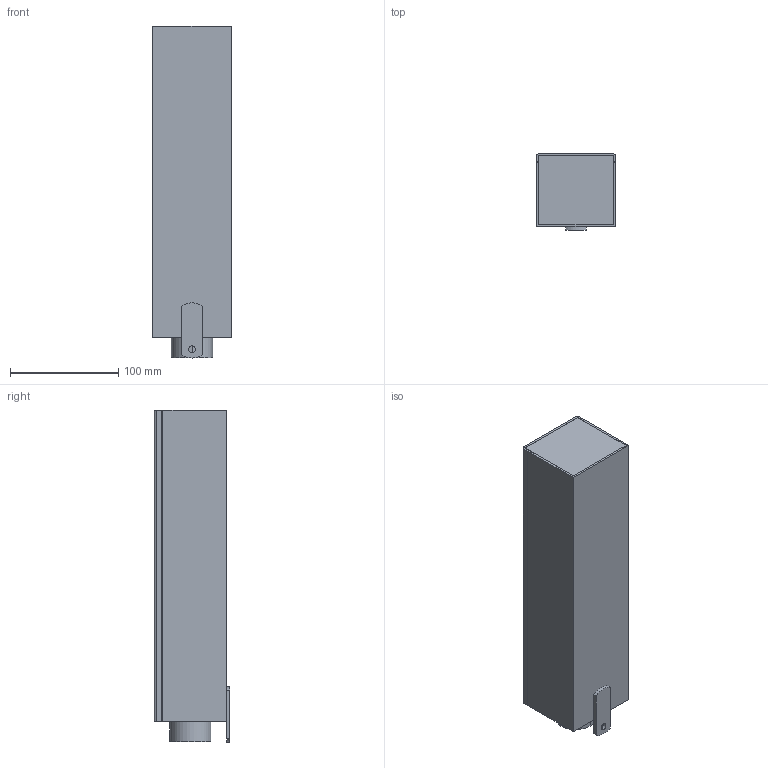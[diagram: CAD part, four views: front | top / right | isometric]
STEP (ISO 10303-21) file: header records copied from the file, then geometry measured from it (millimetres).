
FILE_DESCRIPTION((''),'2;1');
FILE_NAME('X-456932_SW0002','2009-05-12T',('LTanasko'),('Rockwell Automation'),'PRO/ENGINEER BY PARAMETRIC TECHNOLOGY CORPORATION, 2005110','PRO/ENGINEER BY PARAMETRIC TECHNOLOGY CORPORATION, 2005110','');
FILE_SCHEMA(('CONFIG_CONTROL_DESIGN'));
Length unit declared in the file: inch
Products named in the file (1): X-456932_SW0002
Bounding box: 72.9 x 70.31 x 307.3 mm (x, y, z)
Surface area: 182395.9 mm2 (no closed solid volume)
Topology: 0 solids, 7 shells, 96 faces, 277 edges, 188 vertices
Faces by surface type: plane 48, cylinder 46, cone 2
Entity records: 3309 total; most frequent: CARTESIAN_POINT 635, DIRECTION 553, ORIENTED_EDGE 508, EDGE_CURVE 277, VERTEX_POINT 188, AXIS2_PLACEMENT_3D 188, VECTOR 177, LINE 177
